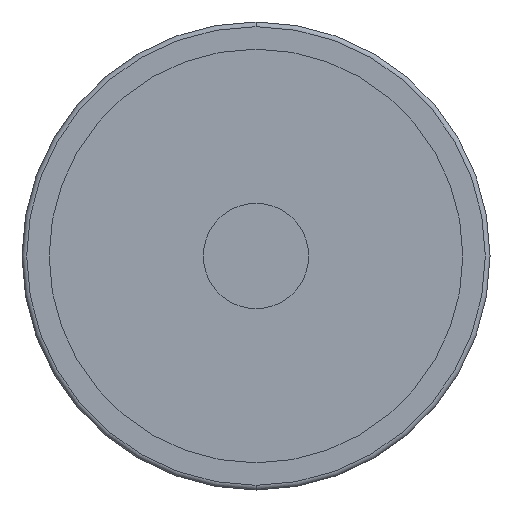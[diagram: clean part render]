
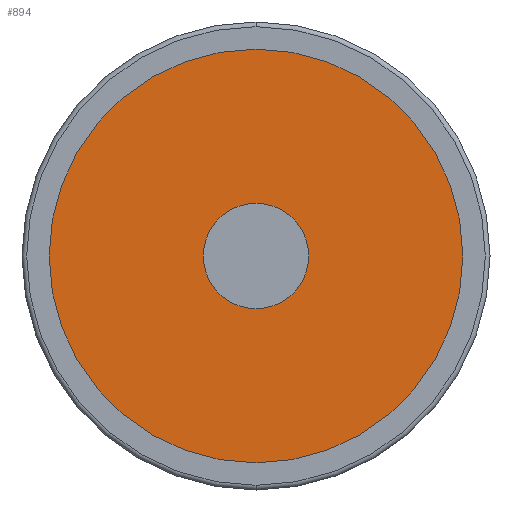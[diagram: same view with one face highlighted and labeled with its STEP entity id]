
A CAD part, front view. The second image highlights one B-rep face of the part: STEP entity #894.
In plain terms, the highlighted planar face has unit normal (0, -1, 0).
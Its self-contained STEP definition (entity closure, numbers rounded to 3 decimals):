
#56 = EDGE_LOOP ( 'NONE', ( #2328, #1765 ) ) ;
#113 = CARTESIAN_POINT ( 'NONE',  ( 0., 4.5, 0. ) ) ;
#147 = VERTEX_POINT ( 'NONE', #1661 ) ;
#177 = DIRECTION ( 'NONE',  ( 0., -1., 0. ) ) ;
#337 = CARTESIAN_POINT ( 'NONE',  ( 10.25, 4.5, 0. ) ) ;
#460 = CIRCLE ( 'NONE', #2549, 44.3 ) ;
#470 = CARTESIAN_POINT ( 'NONE',  ( 0., 4.5, 0. ) ) ;
#503 = AXIS2_PLACEMENT_3D ( 'NONE', #1338, #1854, #875 ) ;
#504 = CIRCLE ( 'NONE', #1966, 10.25 ) ;
#595 = DIRECTION ( 'NONE',  ( 1., 0., 0. ) ) ;
#607 = VERTEX_POINT ( 'NONE', #2952 ) ;
#733 = CARTESIAN_POINT ( 'NONE',  ( 44.3, 4.5, 0. ) ) ;
#806 = CIRCLE ( 'NONE', #503, 44.3 ) ;
#820 = ORIENTED_EDGE ( 'NONE', *, *, #2787, .T. ) ;
#847 = PLANE ( 'NONE',  #2009 ) ;
#851 = ORIENTED_EDGE ( 'NONE', *, *, #1141, .T. ) ;
#875 = DIRECTION ( 'NONE',  ( 1., 0., 0. ) ) ;
#894 = ADVANCED_FACE ( 'NONE', ( #2412, #2593 ), #847, .T. ) ;
#1141 = EDGE_CURVE ( 'NONE', #147, #2916, #806, .T. ) ;
#1153 = DIRECTION ( 'NONE',  ( 1., 0., 0. ) ) ;
#1229 = DIRECTION ( 'NONE',  ( 1., 0., 0. ) ) ;
#1338 = CARTESIAN_POINT ( 'NONE',  ( 0., 4.5, 0. ) ) ;
#1496 = CIRCLE ( 'NONE', #2344, 10.25 ) ;
#1616 = EDGE_LOOP ( 'NONE', ( #851, #820 ) ) ;
#1661 = CARTESIAN_POINT ( 'NONE',  ( -44.3, 4.5, 0. ) ) ;
#1765 = ORIENTED_EDGE ( 'NONE', *, *, #2853, .F. ) ;
#1796 = VERTEX_POINT ( 'NONE', #337 ) ;
#1840 = DIRECTION ( 'NONE',  ( 0., -1., 0. ) ) ;
#1842 = CARTESIAN_POINT ( 'NONE',  ( -44.3, 4.5, 0. ) ) ;
#1854 = DIRECTION ( 'NONE',  ( 0., -1., 0. ) ) ;
#1966 = AXIS2_PLACEMENT_3D ( 'NONE', #470, #2212, #1229 ) ;
#2009 = AXIS2_PLACEMENT_3D ( 'NONE', #1842, #177, #1153 ) ;
#2212 = DIRECTION ( 'NONE',  ( 0., -1., 0. ) ) ;
#2328 = ORIENTED_EDGE ( 'NONE', *, *, #3137, .F. ) ;
#2344 = AXIS2_PLACEMENT_3D ( 'NONE', #2895, #2834, #595 ) ;
#2411 = DIRECTION ( 'NONE',  ( 1., 0., 0. ) ) ;
#2412 = FACE_OUTER_BOUND ( 'NONE', #1616, .T. ) ;
#2549 = AXIS2_PLACEMENT_3D ( 'NONE', #113, #1840, #2411 ) ;
#2593 = FACE_BOUND ( 'NONE', #56, .T. ) ;
#2787 = EDGE_CURVE ( 'NONE', #2916, #147, #460, .T. ) ;
#2834 = DIRECTION ( 'NONE',  ( 0., -1., 0. ) ) ;
#2853 = EDGE_CURVE ( 'NONE', #607, #1796, #1496, .T. ) ;
#2895 = CARTESIAN_POINT ( 'NONE',  ( 0., 4.5, 0. ) ) ;
#2916 = VERTEX_POINT ( 'NONE', #733 ) ;
#2952 = CARTESIAN_POINT ( 'NONE',  ( -10.25, 4.5, 0. ) ) ;
#3137 = EDGE_CURVE ( 'NONE', #1796, #607, #504, .T. ) ;
